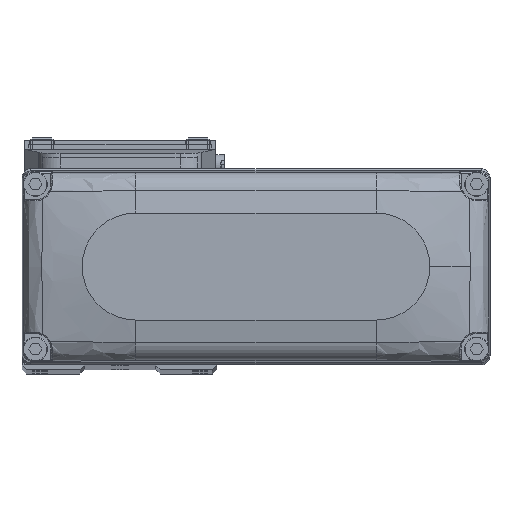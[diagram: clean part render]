
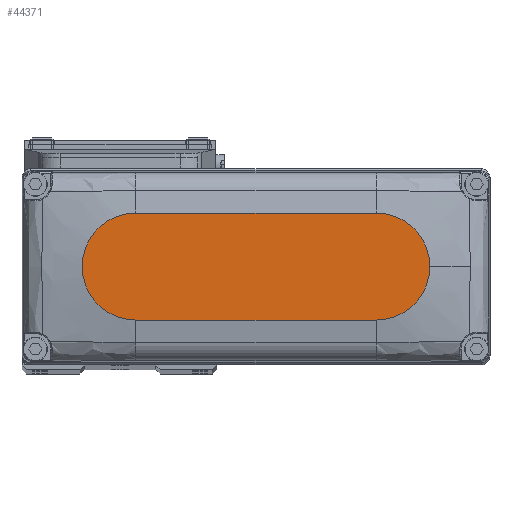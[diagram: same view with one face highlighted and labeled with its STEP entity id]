
A CAD part, top view. The second image highlights one B-rep face of the part: STEP entity #44371.
In plain terms, the highlighted planar face has unit normal (0, 0, 1).
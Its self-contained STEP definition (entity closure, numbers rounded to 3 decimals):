
#67 = FACE_OUTER_BOUND ( 'NONE', #57360, .T. ) ;
#1821 = ORIENTED_EDGE ( 'NONE', *, *, #34325, .T. ) ;
#3936 = VECTOR ( 'NONE', #55773, 1000. ) ;
#4393 = ORIENTED_EDGE ( 'NONE', *, *, #66128, .T. ) ;
#5003 = DIRECTION ( 'NONE',  ( 1., 0., 0. ) ) ;
#6176 = DIRECTION ( 'NONE',  ( 1., 0., 0. ) ) ;
#6970 = CIRCLE ( 'NONE', #50905, 12. ) ;
#7845 = LINE ( 'NONE', #31846, #3936 ) ;
#9499 = CIRCLE ( 'NONE', #19546, 12. ) ;
#16914 = LINE ( 'NONE', #40884, #23092 ) ;
#18155 = DIRECTION ( 'NONE',  ( 1., 0., 0. ) ) ;
#19546 = AXIS2_PLACEMENT_3D ( 'NONE', #36042, #59993, #6176 ) ;
#23092 = VECTOR ( 'NONE', #64840, 1000. ) ;
#23987 = AXIS2_PLACEMENT_3D ( 'NONE', #24205, #48146, #72076 ) ;
#24093 = PLANE ( 'NONE',  #76649 ) ;
#24205 = CARTESIAN_POINT ( 'NONE',  ( 27., 0., 25. ) ) ;
#28396 = ORIENTED_EDGE ( 'NONE', *, *, #38682, .T. ) ;
#30302 = ORIENTED_EDGE ( 'NONE', *, *, #75618, .T. ) ;
#31846 = CARTESIAN_POINT ( 'NONE',  ( -27., 12., 25. ) ) ;
#34325 = EDGE_CURVE ( 'NONE', #40793, #49848, #7845, .T. ) ;
#34899 = CARTESIAN_POINT ( 'NONE',  ( -27., 0., 25. ) ) ;
#35991 = CARTESIAN_POINT ( 'NONE',  ( 39., 0., 25. ) ) ;
#36042 = CARTESIAN_POINT ( 'NONE',  ( 27., 0., 25. ) ) ;
#37217 = CARTESIAN_POINT ( 'NONE',  ( 27., -12., 25. ) ) ;
#38682 = EDGE_CURVE ( 'NONE', #70347, #74420, #16914, .T. ) ;
#40793 = VERTEX_POINT ( 'NONE', #76060 ) ;
#40884 = CARTESIAN_POINT ( 'NONE',  ( -27., -12., 25. ) ) ;
#44371 = ADVANCED_FACE ( 'NONE', ( #67 ), #24093, .T. ) ;
#45332 = ORIENTED_EDGE ( 'NONE', *, *, #75708, .T. ) ;
#48034 = CARTESIAN_POINT ( 'NONE',  ( 0., 0., 25. ) ) ;
#48146 = DIRECTION ( 'NONE',  ( 0., 0., 1. ) ) ;
#49848 = VERTEX_POINT ( 'NONE', #64158 ) ;
#50905 = AXIS2_PLACEMENT_3D ( 'NONE', #34899, #58834, #5003 ) ;
#55609 = VERTEX_POINT ( 'NONE', #35991 ) ;
#55773 = DIRECTION ( 'NONE',  ( -1., 0., 0. ) ) ;
#57360 = EDGE_LOOP ( 'NONE', ( #1821, #30302, #28396, #4393, #45332 ) ) ;
#57796 = CIRCLE ( 'NONE', #23987, 12. ) ;
#58834 = DIRECTION ( 'NONE',  ( 0., 0., 1. ) ) ;
#59993 = DIRECTION ( 'NONE',  ( 0., 0., 1. ) ) ;
#64158 = CARTESIAN_POINT ( 'NONE',  ( -27., 12., 25. ) ) ;
#64840 = DIRECTION ( 'NONE',  ( 1., 0., 0. ) ) ;
#66128 = EDGE_CURVE ( 'NONE', #74420, #55609, #57796, .T. ) ;
#70347 = VERTEX_POINT ( 'NONE', #76135 ) ;
#71971 = DIRECTION ( 'NONE',  ( 0., 0., 1. ) ) ;
#72076 = DIRECTION ( 'NONE',  ( 1., 0., 0. ) ) ;
#74420 = VERTEX_POINT ( 'NONE', #37217 ) ;
#75618 = EDGE_CURVE ( 'NONE', #49848, #70347, #6970, .T. ) ;
#75708 = EDGE_CURVE ( 'NONE', #55609, #40793, #9499, .T. ) ;
#76060 = CARTESIAN_POINT ( 'NONE',  ( 27., 12., 25. ) ) ;
#76135 = CARTESIAN_POINT ( 'NONE',  ( -27., -12., 25. ) ) ;
#76649 = AXIS2_PLACEMENT_3D ( 'NONE', #48034, #71971, #18155 ) ;
